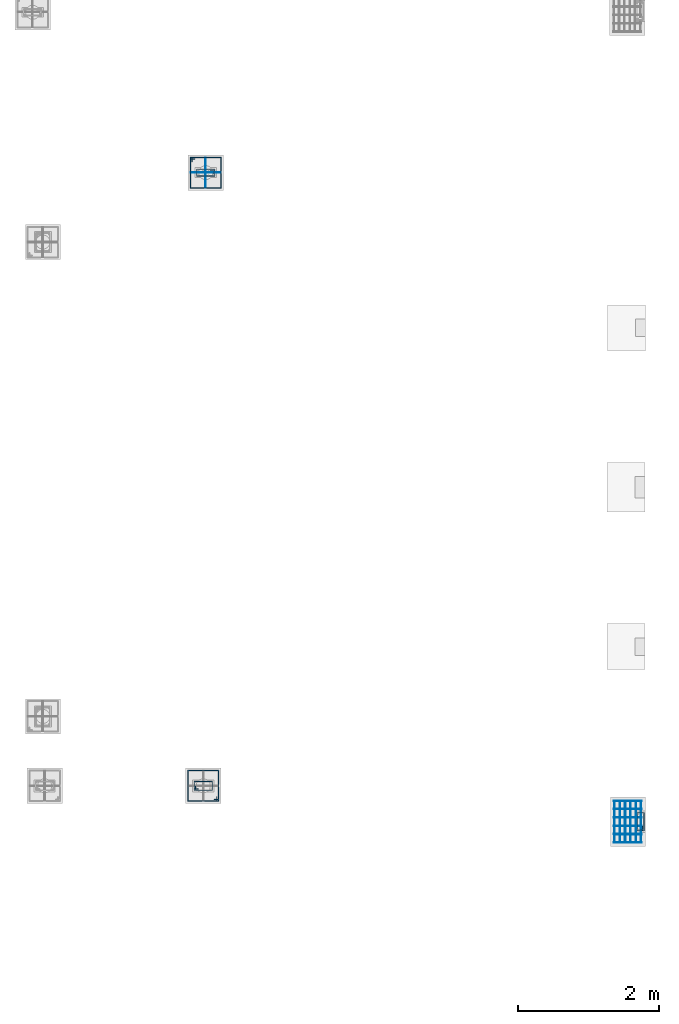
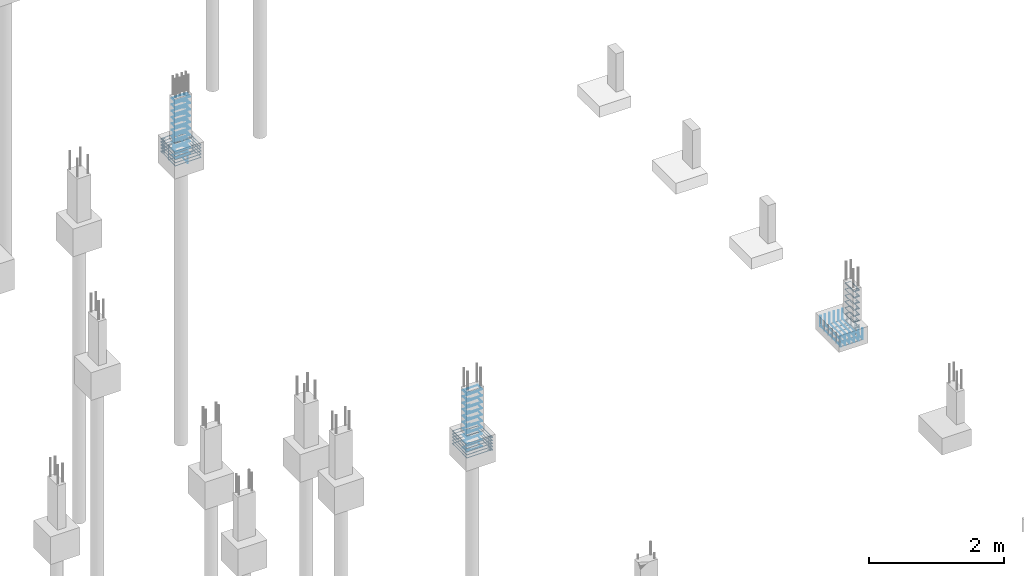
# One storey, part 98 of 119: 52 reinforcing bars.
"""IFC4 building model written with IfcOpenShell, lengths in centimetres."""

from ifc_helpers import new_model, entity, si_unit, derived_unit, frame, origin_with_axes, place, context, project, spatial, source, transform, mapped, element, save


model = new_model("IFC4")

# Units and contexts
model_context = context("Model", 3, precision=1e-05, world=origin_with_axes(), identifier="Body")
ifc_project = project(units=[si_unit("LENGTHUNIT", "METRE", prefix="CENTI"), si_unit("VOLUMEUNIT", "CUBIC_METRE"), si_unit("AREAUNIT", "SQUARE_METRE"), si_unit("POWERUNIT", "WATT"), si_unit("LUMINOUSFLUXUNIT", "LUMEN"), si_unit("ELECTRICCURRENTUNIT", "AMPERE"), si_unit("PRESSUREUNIT", "PASCAL", prefix="KILO"), si_unit("MASSUNIT", "GRAM", prefix="KILO"), si_unit("PLANEANGLEUNIT", "RADIAN"), derived_unit("VOLUMETRICFLOWRATEUNIT", [(si_unit("LENGTHUNIT", "METRE"), 3), (si_unit("TIMEUNIT", "SECOND"), -1)])], contexts=[model_context])

# Site, building, storey
site_placement = place(None, frame((-4000.0, 0.0, 0.0), z_axis=(0.0, 0.0, 1.0), x_axis=(1.0, 0.0, 0.0)))
site = spatial("IfcSite", under=ifc_project, at=site_placement, Name="PADRÃO")
building_placement = place(site_placement, frame((0.0, 0.0, -14.0)))
building = spatial("IfcBuilding", under=site, at=building_placement, Name="CRECHE PRÉ-ESCOLA TIPO 2")
storey_placement = place(building_placement, origin_with_axes())
storey = spatial("IfcBuildingStorey", under=building, at=storey_placement, Name="FUNDAÇÃO", CompositionType="ELEMENT", Elevation=-14.0)

# Reinforcing bars
shared_shape_1 = source(origin_with_axes(), model_context, "Body", "AdvancedSweptSolid", [
    entity("IfcSweptDiskSolid", entity("IfcCompositeCurve", [entity("IfcCompositeCurveSegment", "CONTINUOUS", True, entity("IfcPolyline", [entity("IfcCartesianPoint", [4.25, 21.75, 0.0]), entity("IfcCartesianPoint", [4.25, 27.75, 0.0])])), entity("IfcCompositeCurveSegment", "CONTINUOUS", True, entity("IfcPolyline", [entity("IfcCartesianPoint", [4.25, 27.75, 0.0]), entity("IfcCartesianPoint", [2.25, 27.75, 0.0])])), entity("IfcCompositeCurveSegment", "CONTINUOUS", True, entity("IfcPolyline", [entity("IfcCartesianPoint", [2.25, 27.75, 0.0]), entity("IfcCartesianPoint", [2.25, 2.25, 0.0])])), entity("IfcCompositeCurveSegment", "CONTINUOUS", True, entity("IfcPolyline", [entity("IfcCartesianPoint", [2.25, 2.25, 0.0]), entity("IfcCartesianPoint", [11.75, 2.25, 0.0])])), entity("IfcCompositeCurveSegment", "CONTINUOUS", True, entity("IfcPolyline", [entity("IfcCartesianPoint", [11.75, 2.25, 0.0]), entity("IfcCartesianPoint", [11.75, 27.75, -0.5])])), entity("IfcCompositeCurveSegment", "CONTINUOUS", True, entity("IfcPolyline", [entity("IfcCartesianPoint", [11.75, 27.75, -0.5]), entity("IfcCartesianPoint", [2.25, 27.75, -0.5])])), entity("IfcCompositeCurveSegment", "CONTINUOUS", True, entity("IfcPolyline", [entity("IfcCartesianPoint", [2.25, 27.75, -0.5]), entity("IfcCartesianPoint", [2.25, 25.75, -0.5])])), entity("IfcCompositeCurveSegment", "CONTINUOUS", True, entity("IfcPolyline", [entity("IfcCartesianPoint", [2.25, 25.75, -0.5]), entity("IfcCartesianPoint", [8.25, 25.75, -0.5])]))], False), 0.25),
])
for number, where, z_axis, x_axis, name in (
    (1, (4000.0, 1779.11, -16.6875), (0.0, 0.0, 1.0), (-1.0, 0.0, 0.0), "P100 - Estribo"),
    (2, (4000.0, 1779.11, -5.5625), (0.0, 0.0, 1.0), (-1.0, 0.0, 0.0), "P100 - Estribo"),
    (3, (4000.0, 1779.11, -83.4375), (0.0, 0.0, 1.0), (-1.0, 0.0, 0.0), "P100 - Estribo"),
    (4, (4000.0, 1779.11, -61.1875), (0.0, 0.0, 1.0), (-1.0, 0.0, 0.0), "P100 - Estribo"),
    (5, (4000.0, 1779.11, -50.0625), (0.0, 0.0, 1.0), (-1.0, 0.0, 0.0), "P100 - Estribo"),
    (6, (4000.0, 1779.11, -38.9375), (0.0, 0.0, 1.0), (-1.0, 0.0, 0.0), "P100 - Estribo"),
    (7, (4000.0, 1779.11, -27.8125), (0.0, 0.0, 1.0), (-1.0, 0.0, 0.0), "P100 - Estribo"),
    (8, (4000.0, 1779.11, -72.3125), (0.0, 0.0, 1.0), (-1.0, 0.0, 0.0), "P100 - Estribo"),
):
    element("IfcReinforcingBar", number, at=place(storey_placement, frame(where, z_axis=z_axis, x_axis=x_axis)), inside=storey, Name=name, BarLength=0.0, CrossSectionArea=1.9634954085e-05, NominalDiameter=0.5, PredefinedType="MAIN", context=model_context, shape_type="MappedRepresentation", body=[
        mapped(shared_shape_1, transform((0.0, 0.0, 0.0), scale=1.0)),
    ])
shared_shape_2 = source(origin_with_axes(), model_context, "Body", "AdvancedSweptSolid", [
    entity("IfcSweptDiskSolid", entity("IfcCompositeCurve", [entity("IfcCompositeCurveSegment", "CONTINUOUS", True, entity("IfcPolyline", [entity("IfcCartesianPoint", [0.0, 0.0, 19.6]), entity("IfcCartesianPoint", [0.0, 0.0, 0.0])])), entity("IfcCompositeCurveSegment", "CONTINUOUS", True, entity("IfcPolyline", [entity("IfcCartesianPoint", [0.0, 0.0, 0.0]), entity("IfcCartesianPoint", [39.2, 0.0, 0.0])])), entity("IfcCompositeCurveSegment", "CONTINUOUS", True, entity("IfcPolyline", [entity("IfcCartesianPoint", [39.2, 0.0, 0.0]), entity("IfcCartesianPoint", [39.2, 0.0, 19.6])]))], False), 0.4),
])
for number, where, z_axis, x_axis, name in (
    (9, (3994.6, 1734.51, -83.6), (0.0, 0.0, 1.0), (-1.0, 0.0, 0.0), "P100 - Sapatas (inferior)"),
    (10, (3994.6, 1746.35, -83.6), (0.0, 0.0, 1.0), (-1.0, 0.0, 0.0), "P100 - Sapatas (inferior)"),
    (11, (3994.6, 1758.19, -83.6), (0.0, 0.0, 1.0), (-1.0, 0.0, 0.0), "P100 - Sapatas (inferior)"),
    (12, (3994.6, 1770.03, -83.6), (0.0, 0.0, 1.0), (-1.0, 0.0, 0.0), "P100 - Sapatas (inferior)"),
    (13, (3994.6, 1781.87, -83.6), (0.0, 0.0, 1.0), (-1.0, 0.0, 0.0), "P100 - Sapatas (inferior)"),
    (14, (3994.6, 1793.71, -83.6), (0.0, 0.0, 1.0), (-1.0, 0.0, 0.0), "P100 - Sapatas (inferior)"),
):
    element("IfcReinforcingBar", number, at=place(storey_placement, frame(where, z_axis=z_axis, x_axis=x_axis)), inside=storey, Name=name, BarLength=0.0, CrossSectionArea=5.0265482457e-05, NominalDiameter=0.8, PredefinedType="MAIN", context=model_context, shape_type="MappedRepresentation", body=[
        mapped(shared_shape_2, transform((0.0, 0.0, 0.0), scale=1.0)),
    ])
shared_shape_3 = source(origin_with_axes(), model_context, "Body", "AdvancedSweptSolid", [
    entity("IfcSweptDiskSolid", entity("IfcCompositeCurve", [entity("IfcCompositeCurveSegment", "CONTINUOUS", True, entity("IfcPolyline", [entity("IfcCartesianPoint", [0.0, 0.0, 18.8]), entity("IfcCartesianPoint", [0.0, 0.0, 0.0])])), entity("IfcCompositeCurveSegment", "CONTINUOUS", True, entity("IfcPolyline", [entity("IfcCartesianPoint", [0.0, 0.0, 0.0]), entity("IfcCartesianPoint", [0.0, 59.2, 0.0])])), entity("IfcCompositeCurveSegment", "CONTINUOUS", True, entity("IfcPolyline", [entity("IfcCartesianPoint", [0.0, 59.2, 0.0]), entity("IfcCartesianPoint", [0.0, 59.2, 18.8])]))], False), 0.4),
])
for number, where, z_axis, x_axis, name in (
    (15, (3993.8, 1793.71, -82.8), (0.0, 0.0, 1.0), (-1.0, 0.0, 0.0), "P100 - Sapatas (inferior)"),
    (16, (3956.2, 1793.71, -82.8), (0.0, 0.0, 1.0), (-1.0, 0.0, 0.0), "P100 - Sapatas (inferior)"),
    (17, (3963.72, 1793.71, -82.8), (0.0, 0.0, 1.0), (-1.0, 0.0, 0.0), "P100 - Sapatas (inferior)"),
    (18, (3971.24, 1793.71, -82.8), (0.0, 0.0, 1.0), (-1.0, 0.0, 0.0), "P100 - Sapatas (inferior)"),
    (19, (3978.76, 1793.71, -82.8), (0.0, 0.0, 1.0), (-1.0, 0.0, 0.0), "P100 - Sapatas (inferior)"),
    (20, (3986.28, 1793.71, -82.8), (0.0, 0.0, 1.0), (-1.0, 0.0, 0.0), "P100 - Sapatas (inferior)"),
):
    element("IfcReinforcingBar", number, at=place(storey_placement, frame(where, z_axis=z_axis, x_axis=x_axis)), inside=storey, Name=name, BarLength=0.0, CrossSectionArea=5.0265482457e-05, NominalDiameter=0.8, PredefinedType="MAIN", context=model_context, shape_type="MappedRepresentation", body=[
        mapped(shared_shape_3, transform((0.0, 0.0, 0.0), scale=1.0)),
    ])
shared_shape_4 = source(origin_with_axes(), model_context, "Body", "AdvancedSweptSolid", [
    entity("IfcSweptDiskSolid", entity("IfcCompositeCurve", [entity("IfcCompositeCurveSegment", "CONTINUOUS", True, entity("IfcPolyline", [entity("IfcCartesianPoint", [4.25, 21.75, 0.0]), entity("IfcCartesianPoint", [4.25, 27.75, 0.0])])), entity("IfcCompositeCurveSegment", "CONTINUOUS", True, entity("IfcPolyline", [entity("IfcCartesianPoint", [4.25, 27.75, 0.0]), entity("IfcCartesianPoint", [2.25, 27.75, 0.0])])), entity("IfcCompositeCurveSegment", "CONTINUOUS", True, entity("IfcPolyline", [entity("IfcCartesianPoint", [2.25, 27.75, 0.0]), entity("IfcCartesianPoint", [2.25, 2.25, 0.0])])), entity("IfcCompositeCurveSegment", "CONTINUOUS", True, entity("IfcPolyline", [entity("IfcCartesianPoint", [2.25, 2.25, 0.0]), entity("IfcCartesianPoint", [11.75, 2.25, 0.0])])), entity("IfcCompositeCurveSegment", "CONTINUOUS", True, entity("IfcPolyline", [entity("IfcCartesianPoint", [11.75, 2.25, 0.0]), entity("IfcCartesianPoint", [11.75, 27.75, -0.5])])), entity("IfcCompositeCurveSegment", "CONTINUOUS", True, entity("IfcPolyline", [entity("IfcCartesianPoint", [11.75, 27.75, -0.5]), entity("IfcCartesianPoint", [2.25, 27.75, -0.5])])), entity("IfcCompositeCurveSegment", "CONTINUOUS", True, entity("IfcPolyline", [entity("IfcCartesianPoint", [2.25, 27.75, -0.5]), entity("IfcCartesianPoint", [2.25, 25.75, -0.5])])), entity("IfcCompositeCurveSegment", "CONTINUOUS", True, entity("IfcPolyline", [entity("IfcCartesianPoint", [2.25, 25.75, -0.5]), entity("IfcCartesianPoint", [8.25, 25.75, -0.5])]))], False), 0.25),
])
for number, where, z_axis, x_axis, name in (
    (21, (3361.0, 2692.02, -40.25), (0.0, 0.0, 1.0), (0.0, -1.0, 0.0), "P69 - Estribo"),
    (22, (3361.0, 2692.02, -5.75), (0.0, 0.0, 1.0), (0.0, -1.0, 0.0), "P69 - Estribo"),
    (23, (3361.0, 2692.02, -17.25), (0.0, 0.0, 1.0), (0.0, -1.0, 0.0), "P69 - Estribo"),
    (24, (3361.0, 2692.02, -28.75), (0.0, 0.0, 1.0), (0.0, -1.0, 0.0), "P69 - Estribo"),
    (25, (3361.0, 2692.02, -51.75), (0.0, 0.0, 1.0), (0.0, -1.0, 0.0), "P69 - Estribo"),
    (26, (3361.0, 2692.02, -63.25), (0.0, 0.0, 1.0), (0.0, -1.0, 0.0), "P69 - Estribo"),
    (27, (3361.0, 2692.02, -74.75), (0.0, 0.0, 1.0), (0.0, -1.0, 0.0), "P69 - Estribo"),
    (28, (3361.0, 2692.02, -86.25), (0.0, 0.0, 1.0), (0.0, -1.0, 0.0), "P69 - Estribo"),
    (29, (3361.0, 2692.02, -97.75), (0.0, 0.0, 1.0), (0.0, -1.0, 0.0), "P69 - Estribo"),
    (30, (3361.0, 2692.02, -109.25), (0.0, 0.0, 1.0), (0.0, -1.0, 0.0), "P69 - Estribo"),
):
    element("IfcReinforcingBar", number, at=place(storey_placement, frame(where, z_axis=z_axis, x_axis=x_axis)), inside=storey, Name=name, BarLength=0.0, CrossSectionArea=1.9634954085e-05, NominalDiameter=0.5, PredefinedType="MAIN", context=model_context, shape_type="MappedRepresentation", body=[
        mapped(shared_shape_4, transform((0.0, 0.0, 0.0), scale=1.0)),
    ])
shared_shape_5 = source(origin_with_axes(), model_context, "Body", "AdvancedSweptSolid", [
    entity("IfcSweptDiskSolid", entity("IfcCompositeCurve", [entity("IfcCompositeCurveSegment", "CONTINUOUS", True, entity("IfcPolyline", [entity("IfcCartesianPoint", [3356.835, 2700.445, 0.0]), entity("IfcCartesianPoint", [3356.835, 2706.705, 0.0])])), entity("IfcCompositeCurveSegment", "CONTINUOUS", True, entity("IfcPolyline", [entity("IfcCartesianPoint", [3356.835, 2706.705, 0.0]), entity("IfcCartesianPoint", [3354.315, 2706.705, 0.0])])), entity("IfcCompositeCurveSegment", "CONTINUOUS", True, entity("IfcPolyline", [entity("IfcCartesianPoint", [3354.315, 2706.705, 0.0]), entity("IfcCartesianPoint", [3354.315, 2663.335, 0.0])])), entity("IfcCompositeCurveSegment", "CONTINUOUS", True, entity("IfcPolyline", [entity("IfcCartesianPoint", [3354.315, 2663.335, 0.0]), entity("IfcCartesianPoint", [3397.685, 2663.335, 0.63])])), entity("IfcCompositeCurveSegment", "CONTINUOUS", True, entity("IfcPolyline", [entity("IfcCartesianPoint", [3397.685, 2663.335, 0.63]), entity("IfcCartesianPoint", [3397.685, 2706.705, 0.63])])), entity("IfcCompositeCurveSegment", "CONTINUOUS", True, entity("IfcPolyline", [entity("IfcCartesianPoint", [3397.685, 2706.705, 0.63]), entity("IfcCartesianPoint", [3354.315, 2706.705, 0.63])])), entity("IfcCompositeCurveSegment", "CONTINUOUS", True, entity("IfcPolyline", [entity("IfcCartesianPoint", [3354.315, 2706.705, 0.63]), entity("IfcCartesianPoint", [3354.315, 2704.185, 0.63])])), entity("IfcCompositeCurveSegment", "CONTINUOUS", True, entity("IfcPolyline", [entity("IfcCartesianPoint", [3354.315, 2704.185, 0.63]), entity("IfcCartesianPoint", [3360.575, 2704.185, 0.63])]))], False), 0.315),
])
for number, where, z_axis, x_axis, name in (
    (31, (0.0, 0.0, -92.225), (0.0, 0.0, 1.0), (1.0, 0.0, 0.0), "P69 - Blocos (estribos)"),
    (32, (0.0, 0.0, -97.875), (0.0, 0.0, 1.0), (1.0, 0.0, 0.0), "P69 - Blocos (estribos)"),
    (33, (0.0, 0.0, -103.525), (0.0, 0.0, 1.0), (1.0, 0.0, 0.0), "P69 - Blocos (estribos)"),
    (34, (0.0, 0.0, -109.175), (0.0, 0.0, 1.0), (1.0, 0.0, 0.0), "P69 - Blocos (estribos)"),
    (35, (0.0, 0.0, -86.575), (0.0, 0.0, 1.0), (1.0, 0.0, 0.0), "P69 - Blocos (estribos)"),
):
    element("IfcReinforcingBar", number, at=place(storey_placement, frame(where, z_axis=z_axis, x_axis=x_axis)), inside=storey, Name=name, BarLength=0.0, CrossSectionArea=3.1172453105e-05, NominalDiameter=0.63, PredefinedType="MAIN", context=model_context, shape_type="MappedRepresentation", body=[
        mapped(shared_shape_5, transform((0.0, 0.0, 0.0), scale=1.0)),
    ])
shared_shape_6 = source(origin_with_axes(), model_context, "Body", "AdvancedSweptSolid", [
    entity("IfcSweptDiskSolid", entity("IfcCompositeCurve", [entity("IfcCompositeCurveSegment", "CONTINUOUS", True, entity("IfcPolyline", [entity("IfcCartesianPoint", [-15.12, -12.0, 0.0]), entity("IfcCartesianPoint", [-21.12, -12.0, 0.0])])), entity("IfcCompositeCurveSegment", "CONTINUOUS", True, entity("IfcPolyline", [entity("IfcCartesianPoint", [-21.12, -12.0, 0.0]), entity("IfcCartesianPoint", [-21.12, -14.0, 0.0])])), entity("IfcCompositeCurveSegment", "CONTINUOUS", True, entity("IfcPolyline", [entity("IfcCartesianPoint", [-21.12, -14.0, 0.0]), entity("IfcCartesianPoint", [21.12, -14.0, 0.0])])), entity("IfcCompositeCurveSegment", "CONTINUOUS", True, entity("IfcPolyline", [entity("IfcCartesianPoint", [21.12, -14.0, 0.0]), entity("IfcCartesianPoint", [21.12, 14.0, 0.5])])), entity("IfcCompositeCurveSegment", "CONTINUOUS", True, entity("IfcPolyline", [entity("IfcCartesianPoint", [21.12, 14.0, 0.5]), entity("IfcCartesianPoint", [-21.12, 14.0, 0.5])])), entity("IfcCompositeCurveSegment", "CONTINUOUS", True, entity("IfcPolyline", [entity("IfcCartesianPoint", [-21.12, 14.0, 0.5]), entity("IfcCartesianPoint", [-21.12, -14.0, 0.5])])), entity("IfcCompositeCurveSegment", "CONTINUOUS", True, entity("IfcPolyline", [entity("IfcCartesianPoint", [-21.12, -14.0, 0.5]), entity("IfcCartesianPoint", [-19.12, -14.0, 0.5])])), entity("IfcCompositeCurveSegment", "CONTINUOUS", True, entity("IfcPolyline", [entity("IfcCartesianPoint", [-19.12, -14.0, 0.5]), entity("IfcCartesianPoint", [-19.12, -8.0, 0.5])]))], False), 0.25),
])
reinforcing_bar_1_placement = place(storey_placement, frame((3376.0, 2685.02, -97.75), z_axis=(0.0, 1.0, 0.0), x_axis=(1.0, 0.0, 0.0)))
element("IfcReinforcingBar", 36, at=reinforcing_bar_1_placement, inside=storey, Name="P69 - Blocos (estribos)", BarLength=0.0, CrossSectionArea=1.9634954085e-05, NominalDiameter=0.5, PredefinedType="MAIN", context=model_context, shape_type="MappedRepresentation", body=[
    mapped(shared_shape_6, transform((0.0, 0.0, 0.0), scale=1.0)),
])
shared_shape_7 = source(origin_with_axes(), model_context, "Body", "AdvancedSweptSolid", [
    entity("IfcSweptDiskSolid", entity("IfcCompositeCurve", [entity("IfcCompositeCurveSegment", "CONTINUOUS", True, entity("IfcPolyline", [entity("IfcCartesianPoint", [-15.12, -12.0, 0.0]), entity("IfcCartesianPoint", [-21.12, -12.0, 0.0])])), entity("IfcCompositeCurveSegment", "CONTINUOUS", True, entity("IfcPolyline", [entity("IfcCartesianPoint", [-21.12, -12.0, 0.0]), entity("IfcCartesianPoint", [-21.12, -14.0, 0.0])])), entity("IfcCompositeCurveSegment", "CONTINUOUS", True, entity("IfcPolyline", [entity("IfcCartesianPoint", [-21.12, -14.0, 0.0]), entity("IfcCartesianPoint", [21.12, -14.0, 0.0])])), entity("IfcCompositeCurveSegment", "CONTINUOUS", True, entity("IfcPolyline", [entity("IfcCartesianPoint", [21.12, -14.0, 0.0]), entity("IfcCartesianPoint", [21.12, 14.0, 0.5])])), entity("IfcCompositeCurveSegment", "CONTINUOUS", True, entity("IfcPolyline", [entity("IfcCartesianPoint", [21.12, 14.0, 0.5]), entity("IfcCartesianPoint", [-21.12, 14.0, 0.5])])), entity("IfcCompositeCurveSegment", "CONTINUOUS", True, entity("IfcPolyline", [entity("IfcCartesianPoint", [-21.12, 14.0, 0.5]), entity("IfcCartesianPoint", [-21.12, -14.0, 0.5])])), entity("IfcCompositeCurveSegment", "CONTINUOUS", True, entity("IfcPolyline", [entity("IfcCartesianPoint", [-21.12, -14.0, 0.5]), entity("IfcCartesianPoint", [-19.12, -14.0, 0.5])])), entity("IfcCompositeCurveSegment", "CONTINUOUS", True, entity("IfcPolyline", [entity("IfcCartesianPoint", [-19.12, -14.0, 0.5]), entity("IfcCartesianPoint", [-19.12, -8.0, 0.5])]))], False), 0.25),
])
reinforcing_bar_2_placement = place(storey_placement, frame((3376.0, 2685.02, -97.75), z_axis=(-1.0, 0.0, 0.0), x_axis=(0.0, 1.0, 0.0)))
element("IfcReinforcingBar", 37, at=reinforcing_bar_2_placement, inside=storey, Name="P69 - Blocos (estribos)", BarLength=0.0, CrossSectionArea=1.9634954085e-05, NominalDiameter=0.5, PredefinedType="MAIN", context=model_context, shape_type="MappedRepresentation", body=[
    mapped(shared_shape_7, transform((0.0, 0.0, 0.0), scale=1.0)),
])
shared_shape_8 = source(origin_with_axes(), model_context, "Body", "AdvancedSweptSolid", [
    entity("IfcSweptDiskSolid", entity("IfcCompositeCurve", [entity("IfcCompositeCurveSegment", "CONTINUOUS", True, entity("IfcPolyline", [entity("IfcCartesianPoint", [4.25, 21.75, 0.0]), entity("IfcCartesianPoint", [4.25, 27.75, 0.0])])), entity("IfcCompositeCurveSegment", "CONTINUOUS", True, entity("IfcPolyline", [entity("IfcCartesianPoint", [4.25, 27.75, 0.0]), entity("IfcCartesianPoint", [2.25, 27.75, 0.0])])), entity("IfcCompositeCurveSegment", "CONTINUOUS", True, entity("IfcPolyline", [entity("IfcCartesianPoint", [2.25, 27.75, 0.0]), entity("IfcCartesianPoint", [2.25, 2.25, 0.0])])), entity("IfcCompositeCurveSegment", "CONTINUOUS", True, entity("IfcPolyline", [entity("IfcCartesianPoint", [2.25, 2.25, 0.0]), entity("IfcCartesianPoint", [14.75, 2.25, 0.0])])), entity("IfcCompositeCurveSegment", "CONTINUOUS", True, entity("IfcPolyline", [entity("IfcCartesianPoint", [14.75, 2.25, 0.0]), entity("IfcCartesianPoint", [14.75, 27.75, -0.5])])), entity("IfcCompositeCurveSegment", "CONTINUOUS", True, entity("IfcPolyline", [entity("IfcCartesianPoint", [14.75, 27.75, -0.5]), entity("IfcCartesianPoint", [2.25, 27.75, -0.5])])), entity("IfcCompositeCurveSegment", "CONTINUOUS", True, entity("IfcPolyline", [entity("IfcCartesianPoint", [2.25, 27.75, -0.5]), entity("IfcCartesianPoint", [2.25, 25.75, -0.5])])), entity("IfcCompositeCurveSegment", "CONTINUOUS", True, entity("IfcPolyline", [entity("IfcCartesianPoint", [2.25, 25.75, -0.5]), entity("IfcCartesianPoint", [8.25, 25.75, -0.5])]))], False), 0.25),
])
for number, where, z_axis, x_axis, name in (
    (38, (3387.5, 1806.52, -51.75), (0.0, 0.0, 1.0), (0.0, 1.0, 0.0), "P97 - Estribo"),
    (39, (3387.5, 1806.52, -63.25), (0.0, 0.0, 1.0), (0.0, 1.0, 0.0), "P97 - Estribo"),
    (40, (3387.5, 1806.52, -74.75), (0.0, 0.0, 1.0), (0.0, 1.0, 0.0), "P97 - Estribo"),
    (41, (3387.5, 1806.52, -86.25), (0.0, 0.0, 1.0), (0.0, 1.0, 0.0), "P97 - Estribo"),
    (42, (3387.5, 1806.52, -97.75), (0.0, 0.0, 1.0), (0.0, 1.0, 0.0), "P97 - Estribo"),
    (43, (3387.5, 1806.52, -109.25), (0.0, 0.0, 1.0), (0.0, 1.0, 0.0), "P97 - Estribo"),
    (44, (3387.5, 1806.52, -17.25), (0.0, 0.0, 1.0), (0.0, 1.0, 0.0), "P97 - Estribo"),
    (45, (3387.5, 1806.52, -5.75), (0.0, 0.0, 1.0), (0.0, 1.0, 0.0), "P97 - Estribo"),
    (46, (3387.5, 1806.52, -40.25), (0.0, 0.0, 1.0), (0.0, 1.0, 0.0), "P97 - Estribo"),
    (47, (3387.5, 1806.52, -28.75), (0.0, 0.0, 1.0), (0.0, 1.0, 0.0), "P97 - Estribo"),
):
    element("IfcReinforcingBar", number, at=place(storey_placement, frame(where, z_axis=z_axis, x_axis=x_axis)), inside=storey, Name=name, BarLength=0.0, CrossSectionArea=1.9634954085e-05, NominalDiameter=0.5, PredefinedType="MAIN", context=model_context, shape_type="MappedRepresentation", body=[
        mapped(shared_shape_8, transform((0.0, 0.0, 0.0), scale=1.0)),
    ])
shared_shape_9 = source(origin_with_axes(), model_context, "Body", "AdvancedSweptSolid", [
    entity("IfcSweptDiskSolid", entity("IfcCompositeCurve", [entity("IfcCompositeCurveSegment", "CONTINUOUS", True, entity("IfcPolyline", [entity("IfcCartesianPoint", [3391.665, 1799.595, 0.0]), entity("IfcCartesianPoint", [3391.665, 1793.335, 0.0])])), entity("IfcCompositeCurveSegment", "CONTINUOUS", True, entity("IfcPolyline", [entity("IfcCartesianPoint", [3391.665, 1793.335, 0.0]), entity("IfcCartesianPoint", [3394.185, 1793.335, 0.0])])), entity("IfcCompositeCurveSegment", "CONTINUOUS", True, entity("IfcPolyline", [entity("IfcCartesianPoint", [3394.185, 1793.335, 0.0]), entity("IfcCartesianPoint", [3394.185, 1836.705, 0.0])])), entity("IfcCompositeCurveSegment", "CONTINUOUS", True, entity("IfcPolyline", [entity("IfcCartesianPoint", [3394.185, 1836.705, 0.0]), entity("IfcCartesianPoint", [3350.815, 1836.705, 0.63])])), entity("IfcCompositeCurveSegment", "CONTINUOUS", True, entity("IfcPolyline", [entity("IfcCartesianPoint", [3350.815, 1836.705, 0.63]), entity("IfcCartesianPoint", [3350.815, 1793.335, 0.63])])), entity("IfcCompositeCurveSegment", "CONTINUOUS", True, entity("IfcPolyline", [entity("IfcCartesianPoint", [3350.815, 1793.335, 0.63]), entity("IfcCartesianPoint", [3394.185, 1793.335, 0.63])])), entity("IfcCompositeCurveSegment", "CONTINUOUS", True, entity("IfcPolyline", [entity("IfcCartesianPoint", [3394.185, 1793.335, 0.63]), entity("IfcCartesianPoint", [3394.185, 1795.855, 0.63])])), entity("IfcCompositeCurveSegment", "CONTINUOUS", True, entity("IfcPolyline", [entity("IfcCartesianPoint", [3394.185, 1795.855, 0.63]), entity("IfcCartesianPoint", [3387.925, 1795.855, 0.63])]))], False), 0.315),
])
for number, where, z_axis, x_axis, name in (
    (48, (0.0, 0.0, -92.225), (0.0, 0.0, 1.0), (1.0, 0.0, 0.0), "P97 - Blocos (estribos)"),
    (49, (0.0, 0.0, -97.875), (0.0, 0.0, 1.0), (1.0, 0.0, 0.0), "P97 - Blocos (estribos)"),
    (50, (0.0, 0.0, -103.525), (0.0, 0.0, 1.0), (1.0, 0.0, 0.0), "P97 - Blocos (estribos)"),
    (51, (0.0, 0.0, -109.175), (0.0, 0.0, 1.0), (1.0, 0.0, 0.0), "P97 - Blocos (estribos)"),
    (52, (0.0, 0.0, -86.575), (0.0, 0.0, 1.0), (1.0, 0.0, 0.0), "P97 - Blocos (estribos)"),
):
    element("IfcReinforcingBar", number, at=place(storey_placement, frame(where, z_axis=z_axis, x_axis=x_axis)), inside=storey, Name=name, BarLength=0.0, CrossSectionArea=3.1172453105e-05, NominalDiameter=0.63, PredefinedType="MAIN", context=model_context, shape_type="MappedRepresentation", body=[
        mapped(shared_shape_9, transform((0.0, 0.0, 0.0), scale=1.0)),
    ])

save(model, "model.ifc")
